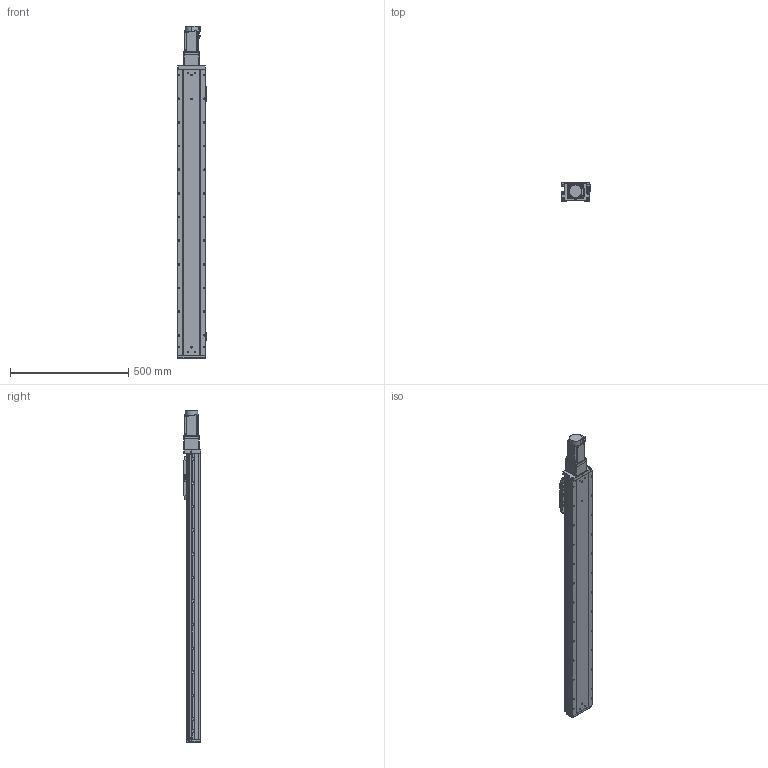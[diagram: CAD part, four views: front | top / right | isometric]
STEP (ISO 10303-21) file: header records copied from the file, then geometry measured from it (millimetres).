
FILE_DESCRIPTION (( 'STEP AP203' ), '1' );
FILE_NAME ('GTH12-1000-BC-M40-C4.step', '2022-09-23T01:13:13', ( '微软用户' ), ( '微软中国' ), 'SwSTEP 2.0', 'SolidWorks 2020', '' );
FILE_SCHEMA (( 'CONFIG_CONTROL_DESIGN' ));
Length unit declared in the file: millimetre
Products named in the file (19): GBT 70.3-M3℅8; CTHA86-006-1_CTHA86-006-2; GTH120-003; GTH80-022; CTHA86-013; GTH120-006; GTH80-028; CTHA86-027; GTH120-004; GTH50-023; hg-kn43j_-s100_; GTH120-013; GTH50-024; GTH12-1000-BC-M40-C4; GBT 70.1-M3℅6; GBT96.1-2002 3×0.8; GBT 70.1-M5×16; BTH-M3X5X6; GTH120-001_1000
Assembly tree (62 placements, depth 2):
  GTH12-1000-BC-M40-C4
    GTH120-001_1000
    GTH120-003
    GTH120-006
    GTH120-004
    GTH120-013
    GBT 70.1-M3℅6  x14
    GBT 70.1-M5×16  x10
    GBT 70.3-M3℅8  x6
    GTH80-022
    GTH80-028  x2
    GTH50-023  x3
    GTH50-024  x3
    GBT96.1-2002 3×0.8  x6
    BTH-M3X5X6  x8
    CTHA86-006-1_CTHA86-006-2
    CTHA86-013
    CTHA86-027
    hg-kn43j_-s100_
Bounding box: 125.7 x 76 x 1403.7 mm (x, y, z)
Volume: 8961613 mm3; surface area: 763423.4 mm2
Topology: 64 solids, 64 shells, 2556 faces, 5957 edges, 3633 vertices
Faces by surface type: plane 1288, cylinder 743, cone 347, torus 170, sphere 8
Entity records: 47162 total; most frequent: DIRECTION 7919, CARTESIAN_POINT 7594, ORIENTED_EDGE 7296, EDGE_CURVE 3648, AXIS2_PLACEMENT_3D 2767, LINE 2385, VECTOR 2385, VERTEX_POINT 2292
